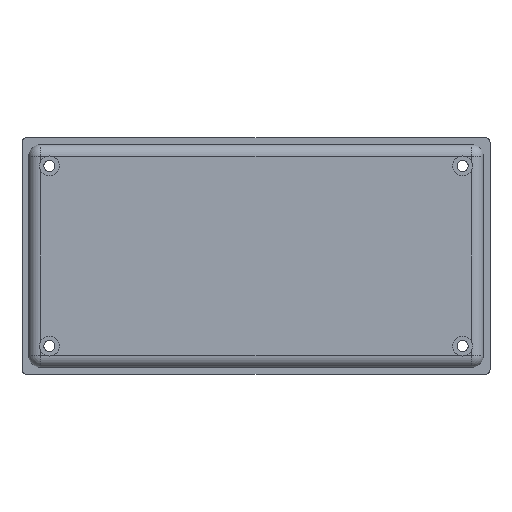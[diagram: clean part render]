
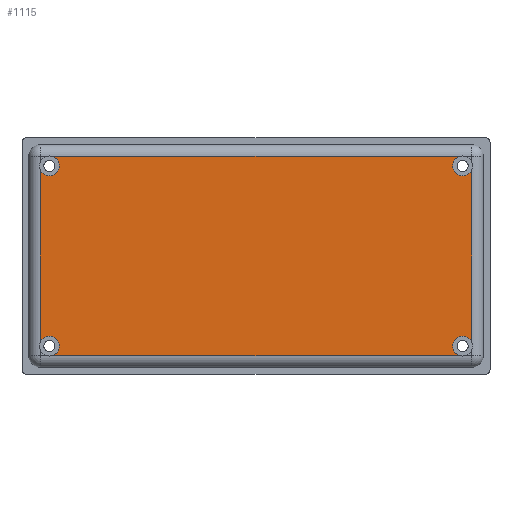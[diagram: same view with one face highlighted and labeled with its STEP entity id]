
A CAD part, front view. The second image highlights one B-rep face of the part: STEP entity #1115.
In plain terms, the highlighted planar face has unit normal (0, -1, 0).
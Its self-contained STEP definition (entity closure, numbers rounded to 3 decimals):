
#1 = CARTESIAN_POINT ( 'NONE',  ( 44.039, -22., 21.5 ) ) ;
#3 = AXIS2_PLACEMENT_3D ( 'NONE', #1855, #990, #2157 ) ;
#19 = ORIENTED_EDGE ( 'NONE', *, *, #1449, .F. ) ;
#36 = DIRECTION ( 'NONE',  ( 0., -1., 0. ) ) ;
#50 = CIRCLE ( 'NONE', #344, 2.15 ) ;
#51 = CARTESIAN_POINT ( 'NONE',  ( 44.5, -22., -19.4 ) ) ;
#75 = AXIS2_PLACEMENT_3D ( 'NONE', #2119, #680, #2137 ) ;
#112 = DIRECTION ( 'NONE',  ( 0., -1., 0. ) ) ;
#126 = ORIENTED_EDGE ( 'NONE', *, *, #1403, .T. ) ;
#212 = AXIS2_PLACEMENT_3D ( 'NONE', #1829, #471, #2301 ) ;
#232 = CARTESIAN_POINT ( 'NONE',  ( 46.5, -22., 18.611 ) ) ;
#290 = VERTEX_POINT ( 'NONE', #1278 ) ;
#299 = CIRCLE ( 'NONE', #2475, 2.15 ) ;
#300 = ORIENTED_EDGE ( 'NONE', *, *, #599, .F. ) ;
#344 = AXIS2_PLACEMENT_3D ( 'NONE', #51, #36, #1153 ) ;
#368 = CARTESIAN_POINT ( 'NONE',  ( -44.5, -22., -17.25 ) ) ;
#377 = CIRCLE ( 'NONE', #75, 2.15 ) ;
#381 = CIRCLE ( 'NONE', #1628, 2.15 ) ;
#390 = EDGE_LOOP ( 'NONE', ( #926, #1819, #1389, #620, #2555, #977, #874, #2361, #2223, #19, #126, #300 ) ) ;
#455 = DIRECTION ( 'NONE',  ( 0., 0., -1. ) ) ;
#471 = DIRECTION ( 'NONE',  ( 0., -1., 0. ) ) ;
#489 = EDGE_CURVE ( 'NONE', #1482, #2212, #1944, .T. ) ;
#549 = CARTESIAN_POINT ( 'NONE',  ( 0., -22., 0. ) ) ;
#581 = VECTOR ( 'NONE', #2153, 1000. ) ;
#599 = EDGE_CURVE ( 'NONE', #2212, #1692, #381, .T. ) ;
#620 = ORIENTED_EDGE ( 'NONE', *, *, #1263, .F. ) ;
#639 = AXIS2_PLACEMENT_3D ( 'NONE', #2267, #1064, #455 ) ;
#680 = DIRECTION ( 'NONE',  ( 0., -1., 0. ) ) ;
#746 = AXIS2_PLACEMENT_3D ( 'NONE', #2053, #2365, #1099 ) ;
#752 = CARTESIAN_POINT ( 'NONE',  ( 46.5, -22., -21.5 ) ) ;
#777 = VERTEX_POINT ( 'NONE', #1247 ) ;
#850 = LINE ( 'NONE', #2281, #2355 ) ;
#874 = ORIENTED_EDGE ( 'NONE', *, *, #1644, .F. ) ;
#882 = VERTEX_POINT ( 'NONE', #1594 ) ;
#909 = VECTOR ( 'NONE', #2241, 1000. ) ;
#926 = ORIENTED_EDGE ( 'NONE', *, *, #489, .F. ) ;
#952 = EDGE_CURVE ( 'NONE', #1482, #1968, #2397, .T. ) ;
#953 = DIRECTION ( 'NONE',  ( 0., 0., -1. ) ) ;
#956 = CARTESIAN_POINT ( 'NONE',  ( -46.5, -22., -18.611 ) ) ;
#977 = ORIENTED_EDGE ( 'NONE', *, *, #1307, .F. ) ;
#990 = DIRECTION ( 'NONE',  ( 0., -1., 0. ) ) ;
#999 = VERTEX_POINT ( 'NONE', #232 ) ;
#1021 = CARTESIAN_POINT ( 'NONE',  ( 44.5, -22., -17.25 ) ) ;
#1057 = PLANE ( 'NONE',  #1525 ) ;
#1064 = DIRECTION ( 'NONE',  ( 0., -1., 0. ) ) ;
#1083 = DIRECTION ( 'NONE',  ( 0., 1., 0. ) ) ;
#1098 = VECTOR ( 'NONE', #1797, 1000. ) ;
#1099 = DIRECTION ( 'NONE',  ( 0., 0., -1. ) ) ;
#1115 = ADVANCED_FACE ( 'NONE', ( #2464 ), #1057, .F. ) ;
#1152 = EDGE_CURVE ( 'NONE', #882, #999, #850, .T. ) ;
#1153 = DIRECTION ( 'NONE',  ( 0., 0., -1. ) ) ;
#1164 = CARTESIAN_POINT ( 'NONE',  ( -44.039, -22., -21.5 ) ) ;
#1170 = CARTESIAN_POINT ( 'NONE',  ( -46.5, -22., -21.5 ) ) ;
#1209 = VERTEX_POINT ( 'NONE', #1 ) ;
#1243 = DIRECTION ( 'NONE',  ( 0., -1., 0. ) ) ;
#1247 = CARTESIAN_POINT ( 'NONE',  ( -44.5, -22., 17.25 ) ) ;
#1263 = EDGE_CURVE ( 'NONE', #882, #1529, #2112, .T. ) ;
#1278 = CARTESIAN_POINT ( 'NONE',  ( -46.5, -22., 18.611 ) ) ;
#1307 = EDGE_CURVE ( 'NONE', #1689, #999, #2494, .T. ) ;
#1319 = DIRECTION ( 'NONE',  ( 0., 0., -1. ) ) ;
#1389 = ORIENTED_EDGE ( 'NONE', *, *, #1634, .F. ) ;
#1403 = EDGE_CURVE ( 'NONE', #290, #1692, #2147, .T. ) ;
#1415 = EDGE_CURVE ( 'NONE', #1209, #2231, #1582, .T. ) ;
#1449 = EDGE_CURVE ( 'NONE', #290, #777, #2026, .T. ) ;
#1455 = CARTESIAN_POINT ( 'NONE',  ( 44.039, -22., -21.5 ) ) ;
#1482 = VERTEX_POINT ( 'NONE', #1164 ) ;
#1510 = CARTESIAN_POINT ( 'NONE',  ( -44.5, -22., -19.4 ) ) ;
#1513 = EDGE_CURVE ( 'NONE', #777, #2231, #377, .T. ) ;
#1525 = AXIS2_PLACEMENT_3D ( 'NONE', #549, #1083, #2030 ) ;
#1529 = VERTEX_POINT ( 'NONE', #1021 ) ;
#1582 = LINE ( 'NONE', #2123, #1098 ) ;
#1594 = CARTESIAN_POINT ( 'NONE',  ( 46.5, -22., -18.611 ) ) ;
#1628 = AXIS2_PLACEMENT_3D ( 'NONE', #1510, #112, #1319 ) ;
#1634 = EDGE_CURVE ( 'NONE', #1529, #1968, #50, .T. ) ;
#1644 = EDGE_CURVE ( 'NONE', #1209, #1689, #299, .T. ) ;
#1689 = VERTEX_POINT ( 'NONE', #2311 ) ;
#1692 = VERTEX_POINT ( 'NONE', #956 ) ;
#1797 = DIRECTION ( 'NONE',  ( -1., 0., 0. ) ) ;
#1819 = ORIENTED_EDGE ( 'NONE', *, *, #952, .T. ) ;
#1829 = CARTESIAN_POINT ( 'NONE',  ( -44.5, -22., 19.4 ) ) ;
#1834 = CARTESIAN_POINT ( 'NONE',  ( 44.5, -22., 19.4 ) ) ;
#1855 = CARTESIAN_POINT ( 'NONE',  ( -44.5, -22., -19.4 ) ) ;
#1944 = CIRCLE ( 'NONE', #3, 2.15 ) ;
#1945 = CARTESIAN_POINT ( 'NONE',  ( -44.039, -22., 21.5 ) ) ;
#1968 = VERTEX_POINT ( 'NONE', #1455 ) ;
#2026 = CIRCLE ( 'NONE', #212, 2.15 ) ;
#2030 = DIRECTION ( 'NONE',  ( 0., 0., 1. ) ) ;
#2053 = CARTESIAN_POINT ( 'NONE',  ( 44.5, -22., -19.4 ) ) ;
#2112 = CIRCLE ( 'NONE', #746, 2.15 ) ;
#2119 = CARTESIAN_POINT ( 'NONE',  ( -44.5, -22., 19.4 ) ) ;
#2123 = CARTESIAN_POINT ( 'NONE',  ( -46.5, -22., 21.5 ) ) ;
#2137 = DIRECTION ( 'NONE',  ( 0., 0., -1. ) ) ;
#2147 = LINE ( 'NONE', #1170, #581 ) ;
#2153 = DIRECTION ( 'NONE',  ( 0., 0., -1. ) ) ;
#2157 = DIRECTION ( 'NONE',  ( 0., 0., -1. ) ) ;
#2212 = VERTEX_POINT ( 'NONE', #368 ) ;
#2223 = ORIENTED_EDGE ( 'NONE', *, *, #1513, .F. ) ;
#2231 = VERTEX_POINT ( 'NONE', #1945 ) ;
#2241 = DIRECTION ( 'NONE',  ( 1., 0., 0. ) ) ;
#2267 = CARTESIAN_POINT ( 'NONE',  ( 44.5, -22., 19.4 ) ) ;
#2274 = DIRECTION ( 'NONE',  ( 0., 0., 1. ) ) ;
#2281 = CARTESIAN_POINT ( 'NONE',  ( 46.5, -22., 21.5 ) ) ;
#2301 = DIRECTION ( 'NONE',  ( 0., 0., -1. ) ) ;
#2311 = CARTESIAN_POINT ( 'NONE',  ( 44.5, -22., 17.25 ) ) ;
#2355 = VECTOR ( 'NONE', #2274, 1000. ) ;
#2361 = ORIENTED_EDGE ( 'NONE', *, *, #1415, .T. ) ;
#2365 = DIRECTION ( 'NONE',  ( 0., -1., 0. ) ) ;
#2397 = LINE ( 'NONE', #752, #909 ) ;
#2464 = FACE_OUTER_BOUND ( 'NONE', #390, .T. ) ;
#2475 = AXIS2_PLACEMENT_3D ( 'NONE', #1834, #1243, #953 ) ;
#2494 = CIRCLE ( 'NONE', #639, 2.15 ) ;
#2555 = ORIENTED_EDGE ( 'NONE', *, *, #1152, .T. ) ;
